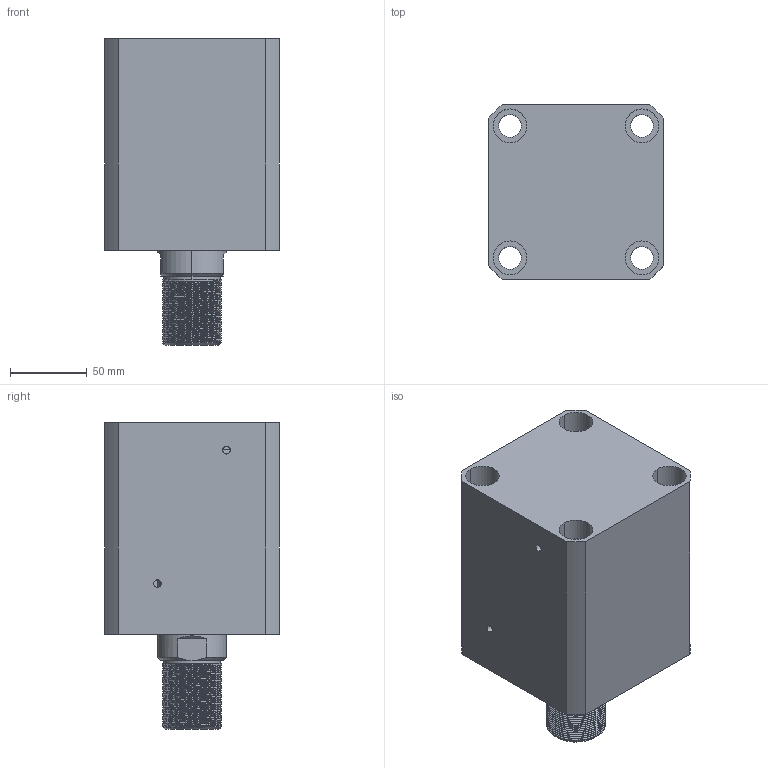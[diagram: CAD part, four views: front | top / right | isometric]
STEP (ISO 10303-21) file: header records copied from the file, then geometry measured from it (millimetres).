
FILE_DESCRIPTION (( 'STEP AP214' ), '1' );
FILE_NAME ('chtb-sdma80x60wasm.STEP', '2018-05-29T03:20:43', ( 'Windows' ), ( 'Microsoft' ), 'SwSTEP 2.0', 'SolidWorks 2015', '' );
FILE_SCHEMA (( 'AUTOMOTIVE_DESIGN' ));
Length unit declared in the file: millimetre
Products named in the file (4): CHTB-SD80X60WHSG; CHTB-SD80QG; chtb-sdma80x60wasm; CHTB-SDMA80X60NBT
Assembly tree (3 placements, depth 2):
  chtb-sdma80x60wasm
    CHTB-SD80QG
    CHTB-SD80X60WHSG
    CHTB-SDMA80X60NBT
Bounding box: 114 x 114 x 200 mm (x, y, z)
Volume: 1501439.6 mm3; surface area: 218627.4 mm2
Topology: 3 solids, 3 shells, 251 faces, 695 edges, 466 vertices
Faces by surface type: cylinder 163, plane 38, torus 18, bspline 16, cone 16
Entity records: 20277 total; most frequent: CARTESIAN_POINT 14301, ORIENTED_EDGE 1382, DIRECTION 1068, EDGE_CURVE 691, VERTEX_POINT 466, AXIS2_PLACEMENT_3D 433, EDGE_LOOP 289, ADVANCED_FACE 251
